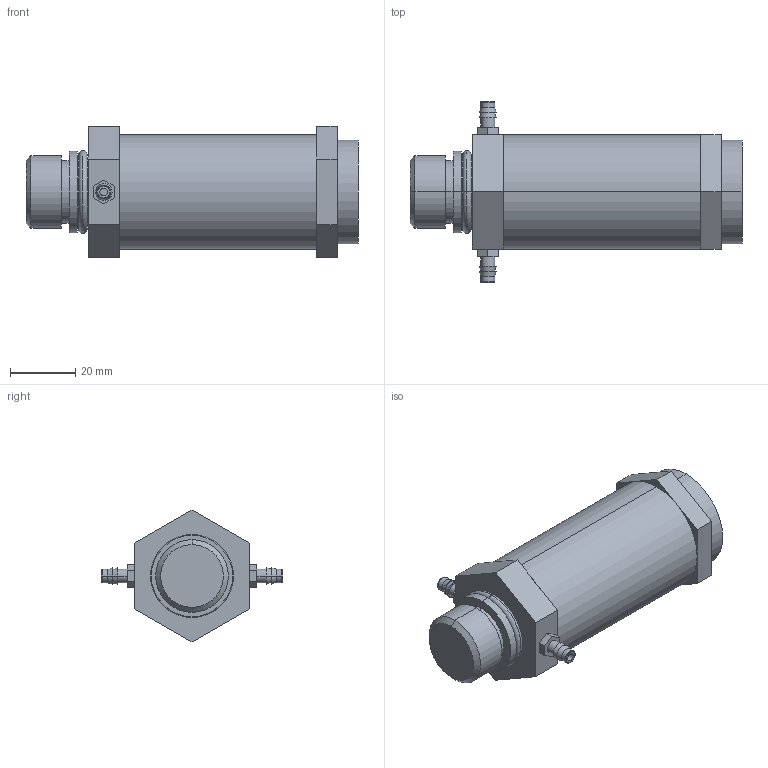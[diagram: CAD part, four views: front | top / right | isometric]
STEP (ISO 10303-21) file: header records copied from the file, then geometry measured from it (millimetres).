
FILE_DESCRIPTION((''),'2;1');
FILE_NAME('XFR3_ASM','2017-08-24T',('jennifer.elliott'),('CenterLine (Windsor) Ltd - Automation Components Division'),'PRO/ENGINEER BY PARAMETRIC TECHNOLOGY CORPORATION, 2015030','PRO/ENGINEER BY PARAMETRIC TECHNOLOGY CORPORATION, 2015030','');
FILE_SCHEMA(('AUTOMOTIVE_DESIGN { 1 0 10303 214 1 1 1 1 }'));
Length unit declared in the file: inch
Products named in the file (8): PRT1088; PRT1089; PRT1090; PRT1091; PRT1092; PRT1093; PRT1094; XFR3_ASM
Assembly tree (7 placements, depth 2):
  XFR3_ASM
    PRT1088
    PRT1089
    PRT1090
    PRT1091
    PRT1092
    PRT1093
    PRT1094
Bounding box: 101.6 x 55.55 x 40.33 mm (x, y, z)
Volume: 87469.1 mm3; surface area: 19846.6 mm2
Topology: 7 solids, 7 shells, 92 faces, 192 edges, 122 vertices
Faces by surface type: plane 46, cylinder 24, torus 12, cone 10
Entity records: 2980 total; most frequent: DIRECTION 492, CARTESIAN_POINT 443, ORIENTED_EDGE 384, AXIS2_PLACEMENT_3D 193, EDGE_CURVE 192, VERTEX_POINT 122, VECTOR 106, LINE 106
